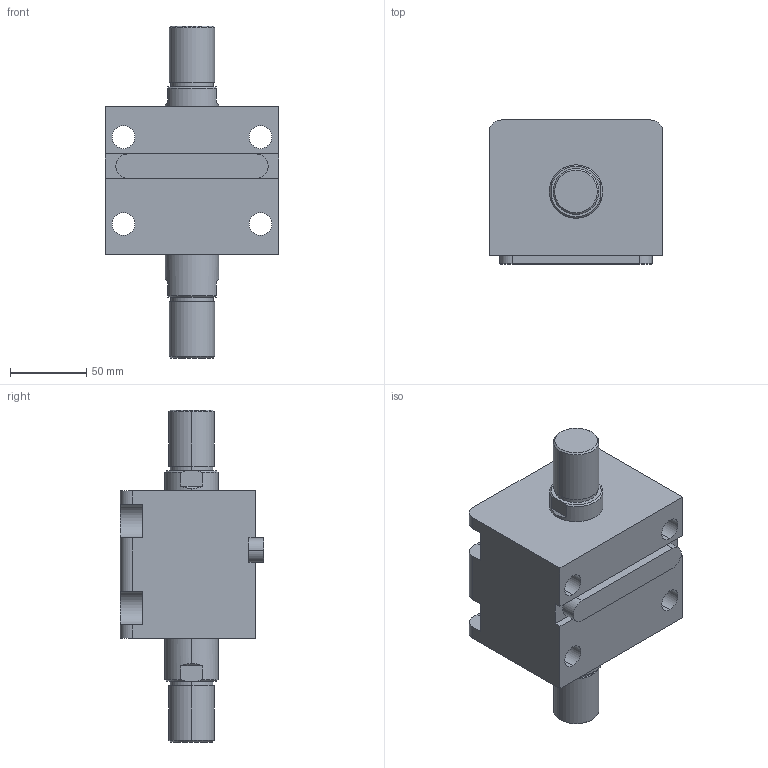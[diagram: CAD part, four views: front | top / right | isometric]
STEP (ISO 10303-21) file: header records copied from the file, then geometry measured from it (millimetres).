
FILE_DESCRIPTION (( 'STEP AP203' ), '1' );
FILE_NAME ('HTB-LW63-15W.STEP', '2019-10-09T08:24:01', ( '微软用户' ), ( '微软中国' ), 'SwSTEP 2.0', 'SolidWorks 2012', '' );
FILE_SCHEMA (( 'CONFIG_CONTROL_DESIGN' ));
Length unit declared in the file: millimetre
Products named in the file (4): HTB-LW63-15W; HTB-LA63-瑩; HTB-LW63-15W活塞杆; HTB-LW63-15掛极
Assembly tree (3 placements, depth 2):
  HTB-LW63-15W
    HTB-LW63-15掛极
    HTB-LW63-15W活塞杆
    HTB-LA63-瑩
Bounding box: 114 x 94.5 x 218 mm (x, y, z)
Volume: 969052 mm3; surface area: 127717 mm2
Topology: 3 solids, 3 shells, 109 faces, 265 edges, 174 vertices
Faces by surface type: plane 48, cylinder 45, cone 12, torus 4
Entity records: 3679 total; most frequent: CARTESIAN_POINT 610, DIRECTION 593, ORIENTED_EDGE 530, EDGE_CURVE 265, AXIS2_PLACEMENT_3D 229, VERTEX_POINT 174, VECTOR 135, LINE 135
